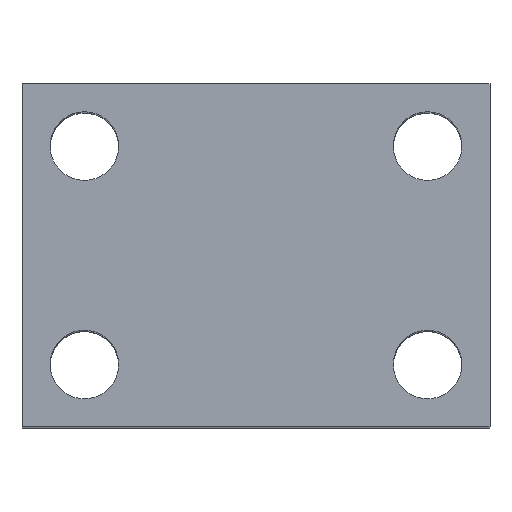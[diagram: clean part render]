
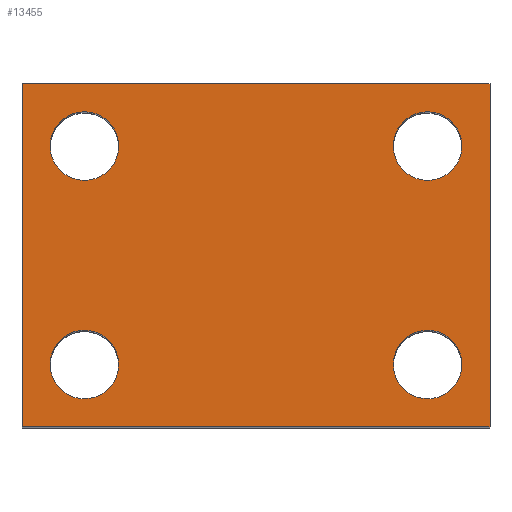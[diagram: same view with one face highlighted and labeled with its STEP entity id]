
A CAD part, top view. The second image highlights one B-rep face of the part: STEP entity #13455.
In plain terms, the highlighted planar face has unit normal (0, 0, 1).
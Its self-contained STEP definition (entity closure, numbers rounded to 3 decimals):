
#142 = DIRECTION ( 'NONE',  ( -1., 0., 0. ) ) ;
#216 = CARTESIAN_POINT ( 'NONE',  ( -37.5, 55., 47.5 ) ) ;
#276 = DIRECTION ( 'NONE',  ( 0., 0., -1. ) ) ;
#452 = VERTEX_POINT ( 'NONE', #14167 ) ;
#593 = AXIS2_PLACEMENT_3D ( 'NONE', #216, #13056, #10591 ) ;
#682 = AXIS2_PLACEMENT_3D ( 'NONE', #15431, #8099, #142 ) ;
#757 = ORIENTED_EDGE ( 'NONE', *, *, #7532, .T. ) ;
#760 = VERTEX_POINT ( 'NONE', #13140 ) ;
#911 = ORIENTED_EDGE ( 'NONE', *, *, #7461, .T. ) ;
#1034 = VERTEX_POINT ( 'NONE', #11178 ) ;
#1107 = CIRCLE ( 'NONE', #682, 5.5 ) ;
#1458 = DIRECTION ( 'NONE',  ( 0., 0., -1. ) ) ;
#1690 = CARTESIAN_POINT ( 'NONE',  ( 22., 10., 47.5 ) ) ;
#1694 = AXIS2_PLACEMENT_3D ( 'NONE', #3132, #11768, #4527 ) ;
#2064 = AXIS2_PLACEMENT_3D ( 'NONE', #11115, #11149, #11207 ) ;
#2311 = VERTEX_POINT ( 'NONE', #16457 ) ;
#2387 = EDGE_LOOP ( 'NONE', ( #15046, #4985 ) ) ;
#2689 = AXIS2_PLACEMENT_3D ( 'NONE', #8207, #276, #9389 ) ;
#2773 = EDGE_CURVE ( 'NONE', #2311, #3017, #12287, .T. ) ;
#2858 = EDGE_CURVE ( 'NONE', #1034, #13465, #5474, .T. ) ;
#2938 = EDGE_CURVE ( 'NONE', #6211, #8212, #11113, .T. ) ;
#3006 = EDGE_CURVE ( 'NONE', #4136, #760, #4287, .T. ) ;
#3017 = VERTEX_POINT ( 'NONE', #6148 ) ;
#3132 = CARTESIAN_POINT ( 'NONE',  ( 27.5, 10., 47.5 ) ) ;
#3388 = DIRECTION ( 'NONE',  ( 0., -1., 0. ) ) ;
#3410 = CARTESIAN_POINT ( 'NONE',  ( -27.5, 45., 47.5 ) ) ;
#3429 = DIRECTION ( 'NONE',  ( 0., 0., -1. ) ) ;
#3450 = DIRECTION ( 'NONE',  ( -1., 0., 0. ) ) ;
#3537 = CARTESIAN_POINT ( 'NONE',  ( 33., 45., 47.5 ) ) ;
#3629 = VECTOR ( 'NONE', #3388, 1000. ) ;
#3952 = VERTEX_POINT ( 'NONE', #11764 ) ;
#4136 = VERTEX_POINT ( 'NONE', #3537 ) ;
#4167 = CARTESIAN_POINT ( 'NONE',  ( -27.5, 10., 47.5 ) ) ;
#4171 = DIRECTION ( 'NONE',  ( 0., 0., -1. ) ) ;
#4227 = DIRECTION ( 'NONE',  ( -1., 0., 0. ) ) ;
#4287 = CIRCLE ( 'NONE', #2064, 5.5 ) ;
#4294 = EDGE_LOOP ( 'NONE', ( #16573, #10333 ) ) ;
#4497 = LINE ( 'NONE', #13099, #10918 ) ;
#4527 = DIRECTION ( 'NONE',  ( -1., 0., 0. ) ) ;
#4585 = EDGE_CURVE ( 'NONE', #6021, #10127, #4497, .T. ) ;
#4676 = CARTESIAN_POINT ( 'NONE',  ( 37.5, 55., 47.5 ) ) ;
#4818 = FACE_OUTER_BOUND ( 'NONE', #12022, .T. ) ;
#4888 = LINE ( 'NONE', #5556, #8064 ) ;
#4889 = EDGE_LOOP ( 'NONE', ( #11610, #11439 ) ) ;
#4985 = ORIENTED_EDGE ( 'NONE', *, *, #3006, .T. ) ;
#5270 = CIRCLE ( 'NONE', #15459, 5.5 ) ;
#5455 = CARTESIAN_POINT ( 'NONE',  ( 27.5, 10., 47.5 ) ) ;
#5474 = CIRCLE ( 'NONE', #8343, 5.5 ) ;
#5519 = DIRECTION ( 'NONE',  ( 0., 0., -1. ) ) ;
#5539 = DIRECTION ( 'NONE',  ( -1., 0., 0. ) ) ;
#5556 = CARTESIAN_POINT ( 'NONE',  ( -37.5, 55., 47.5 ) ) ;
#5816 = DIRECTION ( 'NONE',  ( 1., 0., 0. ) ) ;
#5892 = ORIENTED_EDGE ( 'NONE', *, *, #2858, .T. ) ;
#6021 = VERTEX_POINT ( 'NONE', #11302 ) ;
#6148 = CARTESIAN_POINT ( 'NONE',  ( -33., 45., 47.5 ) ) ;
#6211 = VERTEX_POINT ( 'NONE', #6960 ) ;
#6758 = AXIS2_PLACEMENT_3D ( 'NONE', #3410, #3429, #3450 ) ;
#6960 = CARTESIAN_POINT ( 'NONE',  ( 33., 10., 47.5 ) ) ;
#7434 = EDGE_CURVE ( 'NONE', #6021, #3952, #4888, .T. ) ;
#7436 = EDGE_CURVE ( 'NONE', #3017, #2311, #5270, .T. ) ;
#7461 = EDGE_CURVE ( 'NONE', #13465, #1034, #1107, .T. ) ;
#7489 = EDGE_CURVE ( 'NONE', #8212, #6211, #14239, .T. ) ;
#7507 = EDGE_CURVE ( 'NONE', #760, #4136, #10904, .T. ) ;
#7532 = EDGE_CURVE ( 'NONE', #3952, #452, #7691, .T. ) ;
#7536 = EDGE_CURVE ( 'NONE', #10127, #452, #13464, .T. ) ;
#7691 = LINE ( 'NONE', #10694, #10126 ) ;
#7987 = FACE_BOUND ( 'NONE', #4294, .T. ) ;
#8064 = VECTOR ( 'NONE', #14085, 1000. ) ;
#8099 = DIRECTION ( 'NONE',  ( 0., 0., -1. ) ) ;
#8207 = CARTESIAN_POINT ( 'NONE',  ( 27.5, 45., 47.5 ) ) ;
#8212 = VERTEX_POINT ( 'NONE', #1690 ) ;
#8343 = AXIS2_PLACEMENT_3D ( 'NONE', #4167, #4171, #4227 ) ;
#8370 = FACE_BOUND ( 'NONE', #4889, .T. ) ;
#9116 = CARTESIAN_POINT ( 'NONE',  ( -27.5, 45., 47.5 ) ) ;
#9348 = CARTESIAN_POINT ( 'NONE',  ( -33., 10., 47.5 ) ) ;
#9389 = DIRECTION ( 'NONE',  ( -1., 0., 0. ) ) ;
#9455 = ORIENTED_EDGE ( 'NONE', *, *, #7434, .T. ) ;
#9501 = CARTESIAN_POINT ( 'NONE',  ( 37.5, 55., 47.5 ) ) ;
#10126 = VECTOR ( 'NONE', #15680, 1000. ) ;
#10127 = VERTEX_POINT ( 'NONE', #4676 ) ;
#10333 = ORIENTED_EDGE ( 'NONE', *, *, #2773, .T. ) ;
#10355 = DIRECTION ( 'NONE',  ( -1., 0., 0. ) ) ;
#10591 = DIRECTION ( 'NONE',  ( -1., 0., 0. ) ) ;
#10694 = CARTESIAN_POINT ( 'NONE',  ( -37.5, 0., 47.5 ) ) ;
#10904 = CIRCLE ( 'NONE', #2689, 5.5 ) ;
#10918 = VECTOR ( 'NONE', #5816, 1000. ) ;
#11113 = CIRCLE ( 'NONE', #11611, 5.5 ) ;
#11115 = CARTESIAN_POINT ( 'NONE',  ( 27.5, 45., 47.5 ) ) ;
#11149 = DIRECTION ( 'NONE',  ( 0., 0., -1. ) ) ;
#11178 = CARTESIAN_POINT ( 'NONE',  ( -22., 10., 47.5 ) ) ;
#11207 = DIRECTION ( 'NONE',  ( -1., 0., 0. ) ) ;
#11225 = FACE_BOUND ( 'NONE', #15600, .T. ) ;
#11302 = CARTESIAN_POINT ( 'NONE',  ( -37.5, 55., 47.5 ) ) ;
#11439 = ORIENTED_EDGE ( 'NONE', *, *, #2938, .T. ) ;
#11610 = ORIENTED_EDGE ( 'NONE', *, *, #7489, .T. ) ;
#11611 = AXIS2_PLACEMENT_3D ( 'NONE', #5455, #5519, #5539 ) ;
#11764 = CARTESIAN_POINT ( 'NONE',  ( -37.5, 0., 47.5 ) ) ;
#11768 = DIRECTION ( 'NONE',  ( 0., 0., -1. ) ) ;
#12022 = EDGE_LOOP ( 'NONE', ( #757, #13567, #13179, #9455 ) ) ;
#12287 = CIRCLE ( 'NONE', #6758, 5.5 ) ;
#13056 = DIRECTION ( 'NONE',  ( 0., 0., -1. ) ) ;
#13099 = CARTESIAN_POINT ( 'NONE',  ( -37.5, 55., 47.5 ) ) ;
#13140 = CARTESIAN_POINT ( 'NONE',  ( 22., 45., 47.5 ) ) ;
#13179 = ORIENTED_EDGE ( 'NONE', *, *, #4585, .F. ) ;
#13455 = ADVANCED_FACE ( 'NONE', ( #7987, #11225, #8370, #14550, #4818 ), #15502, .F. ) ;
#13464 = LINE ( 'NONE', #9501, #3629 ) ;
#13465 = VERTEX_POINT ( 'NONE', #9348 ) ;
#13567 = ORIENTED_EDGE ( 'NONE', *, *, #7536, .F. ) ;
#14085 = DIRECTION ( 'NONE',  ( 0., -1., 0. ) ) ;
#14167 = CARTESIAN_POINT ( 'NONE',  ( 37.5, 0., 47.5 ) ) ;
#14239 = CIRCLE ( 'NONE', #1694, 5.5 ) ;
#14550 = FACE_BOUND ( 'NONE', #2387, .T. ) ;
#15046 = ORIENTED_EDGE ( 'NONE', *, *, #7507, .T. ) ;
#15431 = CARTESIAN_POINT ( 'NONE',  ( -27.5, 10., 47.5 ) ) ;
#15459 = AXIS2_PLACEMENT_3D ( 'NONE', #9116, #1458, #10355 ) ;
#15502 = PLANE ( 'NONE',  #593 ) ;
#15600 = EDGE_LOOP ( 'NONE', ( #911, #5892 ) ) ;
#15680 = DIRECTION ( 'NONE',  ( 1., 0., 0. ) ) ;
#16457 = CARTESIAN_POINT ( 'NONE',  ( -22., 45., 47.5 ) ) ;
#16573 = ORIENTED_EDGE ( 'NONE', *, *, #7436, .T. ) ;
